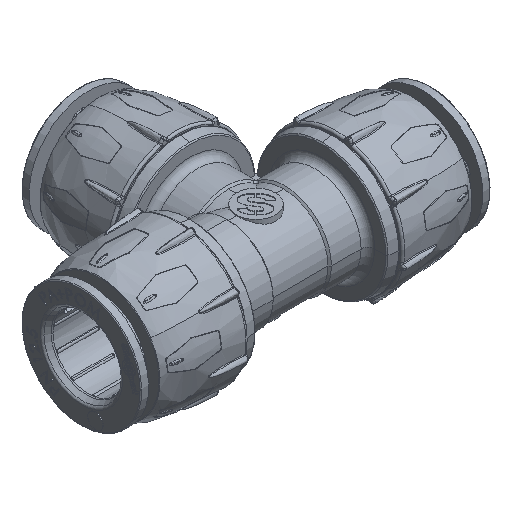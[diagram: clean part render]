
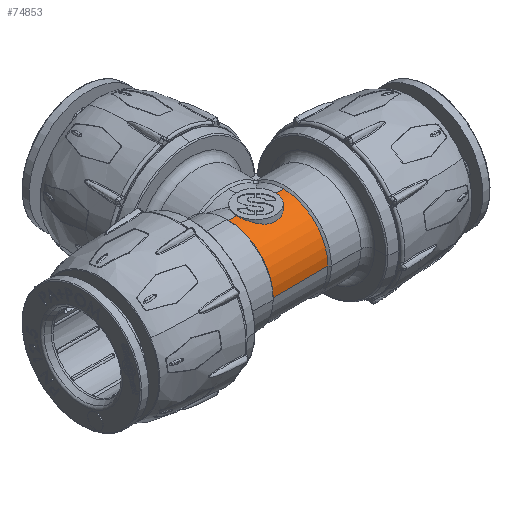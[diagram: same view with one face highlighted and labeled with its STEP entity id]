
A CAD part, isometric view. The second image highlights one B-rep face of the part: STEP entity #74853.
In plain terms, the highlighted cylindrical face has radius 11.55 mm (diameter 23.1 mm), a partial arc.
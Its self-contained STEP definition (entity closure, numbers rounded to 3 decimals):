
#602 = CARTESIAN_POINT ( 'NONE',  ( 14.504, -11.55, 0. ) ) ;
#2847 = CARTESIAN_POINT ( 'NONE',  ( 21.989, -0.669, 11.535 ) ) ;
#3338 = CARTESIAN_POINT ( 'NONE',  ( 18.66, -4.846, 10.485 ) ) ;
#3818 = CARTESIAN_POINT ( 'NONE',  ( 19.553, -4.423, 10.671 ) ) ;
#4334 = CARTESIAN_POINT ( 'NONE',  ( 20.096, -4.046, 10.82 ) ) ;
#7776 = LINE ( 'NONE', #602, #92298 ) ;
#9514 = CARTESIAN_POINT ( 'NONE',  ( 12.65, -2.564, 11.265 ) ) ;
#10335 = CARTESIAN_POINT ( 'NONE',  ( 24.104, -11.55, 0. ) ) ;
#10920 = EDGE_CURVE ( 'NONE', #48180, #64430, #7776, .T. ) ;
#11036 = EDGE_CURVE ( 'NONE', #64430, #20116, #49814, .T. ) ;
#15133 = CARTESIAN_POINT ( 'NONE',  ( 12.494, -2.267, 11.33 ) ) ;
#17192 = CARTESIAN_POINT ( 'NONE',  ( 12.149, -1.333, 11.478 ) ) ;
#17704 = CARTESIAN_POINT ( 'NONE',  ( 21.765, -1.65, 11.436 ) ) ;
#18122 = ORIENTED_EDGE ( 'NONE', *, *, #11036, .T. ) ;
#18192 = CARTESIAN_POINT ( 'NONE',  ( 16.672, -5.123, 10.352 ) ) ;
#18685 = CARTESIAN_POINT ( 'NONE',  ( 21.364, -2.554, 11.268 ) ) ;
#19679 = CARTESIAN_POINT ( 'NONE',  ( 15.362, -4.851, 10.483 ) ) ;
#20116 = VERTEX_POINT ( 'NONE', #31627 ) ;
#24660 = DIRECTION ( 'NONE',  ( 1., 0., 0. ) ) ;
#25877 = CARTESIAN_POINT ( 'NONE',  ( 21.516, -2.263, 11.33 ) ) ;
#26367 = CARTESIAN_POINT ( 'NONE',  ( 20.799, -3.365, 11.052 ) ) ;
#26866 = CARTESIAN_POINT ( 'NONE',  ( 15.685, -4.953, 10.434 ) ) ;
#28910 = AXIS2_PLACEMENT_3D ( 'NONE', #37117, #68782, #52436 ) ;
#31299 = CARTESIAN_POINT ( 'NONE',  ( 24.104, 0., 0. ) ) ;
#31627 = CARTESIAN_POINT ( 'NONE',  ( 24.104, 0., 11.55 ) ) ;
#33024 = VERTEX_POINT ( 'NONE', #63774 ) ;
#33047 = CARTESIAN_POINT ( 'NONE',  ( 11.995, -0.335, 11.546 ) ) ;
#35575 = EDGE_LOOP ( 'NONE', ( #18122, #39256, #67616, #84364, #73102, #92192 ) ) ;
#37117 = CARTESIAN_POINT ( 'NONE',  ( 14.504, 0., 0. ) ) ;
#37612 = CYLINDRICAL_SURFACE ( 'NONE', #28910, 11.55 ) ;
#37686 = CARTESIAN_POINT ( 'NONE',  ( 14.504, 0., 11.55 ) ) ;
#39256 = ORIENTED_EDGE ( 'NONE', *, *, #60672, .T. ) ;
#39522 = VECTOR ( 'NONE', #100077, 1000. ) ;
#40719 = CARTESIAN_POINT ( 'NONE',  ( 13.009, -3.114, 11.126 ) ) ;
#46339 = CARTESIAN_POINT ( 'NONE',  ( 14.75, -4.587, 10.601 ) ) ;
#47383 = VERTEX_POINT ( 'NONE', #79090 ) ;
#47947 = CARTESIAN_POINT ( 'NONE',  ( 22.022, 0., 11.55 ) ) ;
#48180 = VERTEX_POINT ( 'NONE', #77782 ) ;
#48388 = CARTESIAN_POINT ( 'NONE',  ( 12.244, -1.651, 11.436 ) ) ;
#49814 = CIRCLE ( 'NONE', #75929, 11.55 ) ;
#49889 = CARTESIAN_POINT ( 'NONE',  ( 20.345, -3.834, 10.898 ) ) ;
#50879 = CARTESIAN_POINT ( 'NONE',  ( 18.337, -4.95, 10.436 ) ) ;
#51898 = EDGE_CURVE ( 'NONE', #47383, #61404, #80250, .T. ) ;
#52436 = DIRECTION ( 'NONE',  ( 0., 0., 1. ) ) ;
#54014 = CARTESIAN_POINT ( 'NONE',  ( 13.923, -4.054, 10.817 ) ) ;
#55052 = CARTESIAN_POINT ( 'NONE',  ( 12.027, -0.669, 11.532 ) ) ;
#55404 = EDGE_CURVE ( 'NONE', #47383, #33024, #76552, .T. ) ;
#56042 = CARTESIAN_POINT ( 'NONE',  ( 11.987, 0., 11.55 ) ) ;
#56098 = AXIS2_PLACEMENT_3D ( 'NONE', #65267, #66257, #96975 ) ;
#60672 = EDGE_CURVE ( 'NONE', #20116, #61404, #83885, .T. ) ;
#61404 = VERTEX_POINT ( 'NONE', #47947 ) ;
#62478 = DIRECTION ( 'NONE',  ( -1., 0., 0. ) ) ;
#63774 = CARTESIAN_POINT ( 'NONE',  ( 9.904, 0., 11.55 ) ) ;
#64213 = CARTESIAN_POINT ( 'NONE',  ( 13.673, -3.843, 10.895 ) ) ;
#64430 = VERTEX_POINT ( 'NONE', #10335 ) ;
#64734 = CARTESIAN_POINT ( 'NONE',  ( 22.022, -0.337, 11.55 ) ) ;
#65267 = CARTESIAN_POINT ( 'NONE',  ( 9.904, 0., 0. ) ) ;
#66257 = DIRECTION ( 'NONE',  ( 1., 0., 0. ) ) ;
#67616 = ORIENTED_EDGE ( 'NONE', *, *, #51898, .F. ) ;
#68782 = DIRECTION ( 'NONE',  ( -1., 0., 0. ) ) ;
#69197 = VECTOR ( 'NONE', #99750, 1000. ) ;
#71891 = CARTESIAN_POINT ( 'NONE',  ( 13.213, -3.369, 11.05 ) ) ;
#72378 = CARTESIAN_POINT ( 'NONE',  ( 17.35, -5.122, 10.352 ) ) ;
#73102 = ORIENTED_EDGE ( 'NONE', *, *, #85193, .T. ) ;
#73388 = CARTESIAN_POINT ( 'NONE',  ( 17.684, -5.086, 10.37 ) ) ;
#74853 = ADVANCED_FACE ( 'NONE', ( #99997 ), #37612, .T. ) ;
#75929 = AXIS2_PLACEMENT_3D ( 'NONE', #31299, #62478, #93697 ) ;
#76552 = LINE ( 'NONE', #37686, #39522 ) ;
#77782 = CARTESIAN_POINT ( 'NONE',  ( 9.904, -11.55, 0. ) ) ;
#79090 = CARTESIAN_POINT ( 'NONE',  ( 11.987, 0., 11.55 ) ) ;
#80250 = B_SPLINE_CURVE_WITH_KNOTS ( 'NONE', 3,
 ( #56042, #93921, #33047, #55052, #86247, #17192, #48388, #15133, #9514, #40719, #71891, #64213, #54014, #85207, #46339, #19679, #26866, #89766, #18192, #72378, #73388, #50879, #3338, #88265, #3818, #4334, #49889, #26367, #82070, #18685, #25877, #17704, #81096, #2847, #64734, #87770 ),
 .UNSPECIFIED., .F., .F.,
 ( 4, 2, 2, 2, 2, 2, 2, 2, 2, 2, 2, 2, 2, 2, 2, 2, 2, 4 ),
 ( 0.026, 0.026, 0.027, 0.028, 0.029, 0.03, 0.031, 0.032, 0.033, 0.034, 0.035, 0.036, 0.037, 0.038, 0.039, 0.04, 0.041, 0.042 ),
 .UNSPECIFIED. ) ;
#81096 = CARTESIAN_POINT ( 'NONE',  ( 21.862, -1.324, 11.479 ) ) ;
#82070 = CARTESIAN_POINT ( 'NONE',  ( 21.006, -3.105, 11.128 ) ) ;
#83885 = LINE ( 'NONE', #92604, #69197 ) ;
#84364 = ORIENTED_EDGE ( 'NONE', *, *, #55404, .T. ) ;
#85193 = EDGE_CURVE ( 'NONE', #33024, #48180, #87146, .T. ) ;
#85207 = CARTESIAN_POINT ( 'NONE',  ( 14.46, -4.426, 10.67 ) ) ;
#86247 = CARTESIAN_POINT ( 'NONE',  ( 12.052, -0.838, 11.521 ) ) ;
#87146 = CIRCLE ( 'NONE', #56098, 11.55 ) ;
#87770 = CARTESIAN_POINT ( 'NONE',  ( 22.022, 0., 11.55 ) ) ;
#88265 = CARTESIAN_POINT ( 'NONE',  ( 19.267, -4.583, 10.603 ) ) ;
#89766 = CARTESIAN_POINT ( 'NONE',  ( 16.339, -5.088, 10.369 ) ) ;
#92192 = ORIENTED_EDGE ( 'NONE', *, *, #10920, .T. ) ;
#92298 = VECTOR ( 'NONE', #24660, 1000. ) ;
#92604 = CARTESIAN_POINT ( 'NONE',  ( 14.504, 0., 11.55 ) ) ;
#93697 = DIRECTION ( 'NONE',  ( 0., 0., -1. ) ) ;
#93921 = CARTESIAN_POINT ( 'NONE',  ( 11.987, -0.167, 11.55 ) ) ;
#96975 = DIRECTION ( 'NONE',  ( 0., 0., 1. ) ) ;
#99750 = DIRECTION ( 'NONE',  ( -1., 0., 0. ) ) ;
#99997 = FACE_OUTER_BOUND ( 'NONE', #35575, .T. ) ;
#100077 = DIRECTION ( 'NONE',  ( -1., 0., 0. ) ) ;
